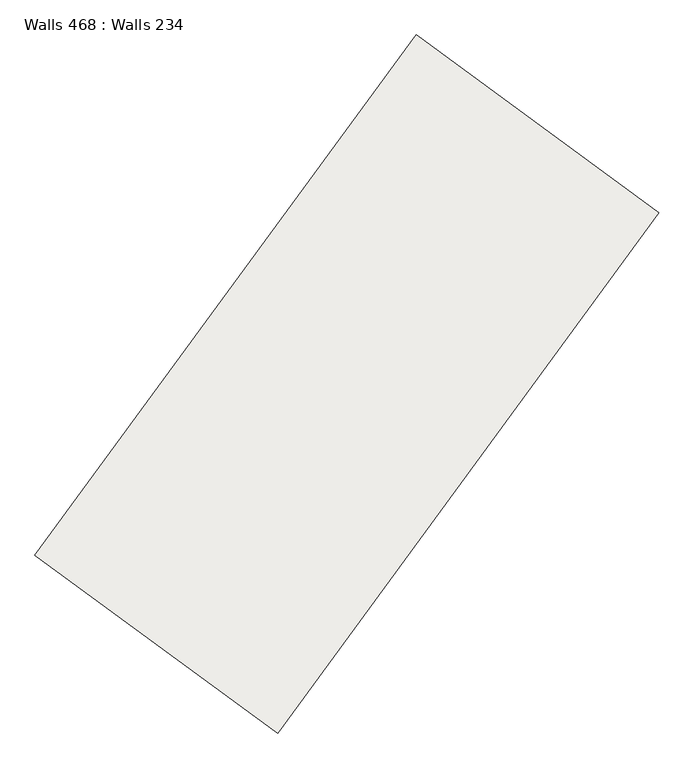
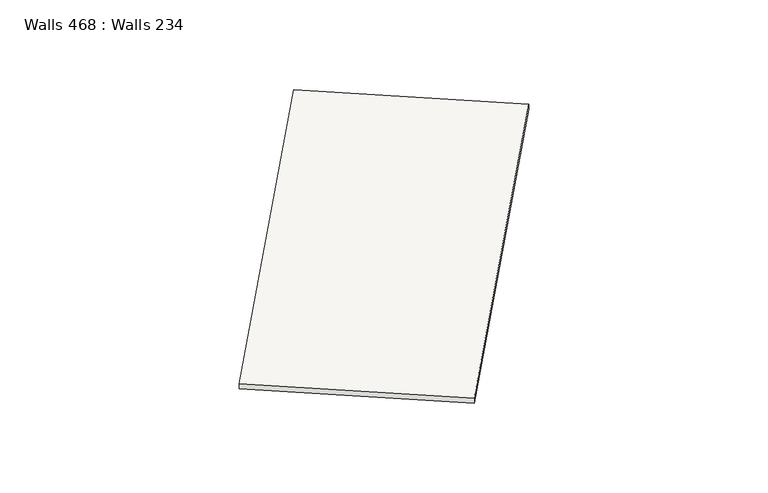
"""IFC4 building model written with IfcOpenShell, lengths in millimetres: slab geometry, Walls 468 : Walls 234."""

from ifc_helpers import new_model, si_unit, frame, origin, place, context, project, spatial, polyline, outline, extrude, source, transform, mapped, element, save


def walls_468_walls_234_bf974d71(model_context):
    return source(origin(), model_context, "Body", "SweptSolid", [
        extrude(outline(polyline([(-50.0, 0.0), (50.0, 0.0), (-62.2, -8570.0), (-162.2, -8570.0), (-50.0, 0.0)])), frame((455182.2053821, 339426.5292841, 646098.0), z_axis=(-0.8067016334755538, 0.5909589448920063, 0.0), x_axis=(0.0, 0.0, 1.0)), (0.0, 0.0, 1.0), 4000.0),
    ])


if __name__ == "__main__":
    model = new_model("IFC4")
    model_context = context("Model", 3, world=origin())
    ifc_project = project(units=[si_unit("LENGTHUNIT", "METRE", prefix="MILLI")], contexts=[model_context])
    site = spatial("IfcSite", under=ifc_project)
    building = spatial("IfcBuilding", under=site)
    placement = place(None, origin())
    walls_468_walls_234_shape = walls_468_walls_234_bf974d71(model_context)
    element("IfcSlab", 1, ObjectType="Walls 468 : Walls 234", at=placement, inside=building, context=model_context, shape_type="MappedRepresentation", body=[
        mapped(walls_468_walls_234_shape, transform((0.0, 0.0, 0.0), x_axis=(1.0, 0.0, 0.0), y_axis=(0.0, 1.0, 0.0), z_axis=(0.0, 0.0, 1.0))),
    ])
    save(model, "model.ifc")
